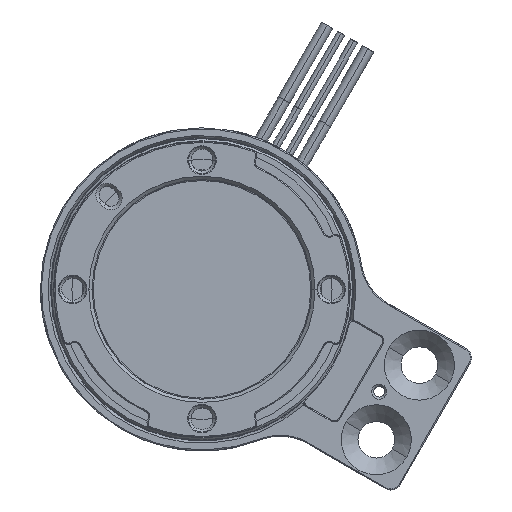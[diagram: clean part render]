
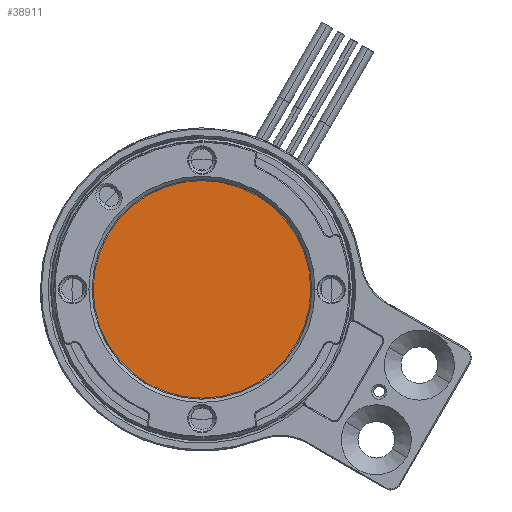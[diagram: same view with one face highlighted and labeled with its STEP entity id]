
A CAD part, front view. The second image highlights one B-rep face of the part: STEP entity #38911.
In plain terms, the highlighted planar face has unit normal (0, -1, 0).
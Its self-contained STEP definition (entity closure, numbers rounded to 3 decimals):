
#34038=CARTESIAN_POINT('',(0.,0.,0.));
#34039=DIRECTION('',(0.,-1.,0.));
#34040=DIRECTION('',(-1.,0.,0.));
#34041=AXIS2_PLACEMENT_3D('',#34038,#34039,#34040);
#34058=CARTESIAN_POINT('',(0.,0.,0.));
#34059=DIRECTION('',(0.,1.,0.));
#34060=DIRECTION('',(1.,0.,0.));
#34061=AXIS2_PLACEMENT_3D('',#34058,#34059,#34060);
#34063=CARTESIAN_POINT('',(0.,0.,0.));
#34064=DIRECTION('',(0.,1.,0.));
#34065=DIRECTION('',(-1.,0.,0.));
#34066=AXIS2_PLACEMENT_3D('',#34063,#34064,#34065);
#34068=CARTESIAN_POINT('',(0.,0.,0.));
#34069=DIRECTION('',(0.,-1.,0.));
#34070=DIRECTION('',(1.,0.,0.));
#34071=AXIS2_PLACEMENT_3D('',#34068,#34069,#34070);
#34820=CARTESIAN_POINT('',(10.1,0.,0.));
#34821=CARTESIAN_POINT('',(-10.1,0.,-0.06));
#34822=VERTEX_POINT('',#34820);
#34823=VERTEX_POINT('',#34821);
#34824=CARTESIAN_POINT('',(-10.1,0.,0.));
#34825=VERTEX_POINT('',#34824);
#34826=CARTESIAN_POINT('',(10.1,0.,0.06));
#34827=VERTEX_POINT('',#34826);
#38898=CARTESIAN_POINT('',(0.,0.,0.));
#38899=DIRECTION('',(0.,1.,0.));
#38900=DIRECTION('',(1.,0.,0.));
#38901=AXIS2_PLACEMENT_3D('',#38898,#38899,#38900);
#38902=PLANE('',#38901);
#38903=ORIENTED_EDGE('',*,*,#38887,.T.);
#38904=ORIENTED_EDGE('',*,*,#38885,.F.);
#38906=ORIENTED_EDGE('',*,*,#38905,.T.);
#38908=ORIENTED_EDGE('',*,*,#38907,.F.);
#38909=EDGE_LOOP('',(#38903,#38904,#38906,#38908));
#38910=FACE_OUTER_BOUND('',#38909,.F.);
#38911=ADVANCED_FACE('',(#38910),#38902,.F.);
#34042=CIRCLE('',#34041,10.1);
#34062=CIRCLE('',#34061,10.1);
#34067=CIRCLE('',#34066,10.1);
#34072=CIRCLE('',#34071,10.1);
#38885=EDGE_CURVE('',#34825,#34823,#34042,.T.);
#38887=EDGE_CURVE('',#34822,#34823,#34062,.T.);
#38905=EDGE_CURVE('',#34825,#34827,#34067,.T.);
#38907=EDGE_CURVE('',#34822,#34827,#34072,.T.);
